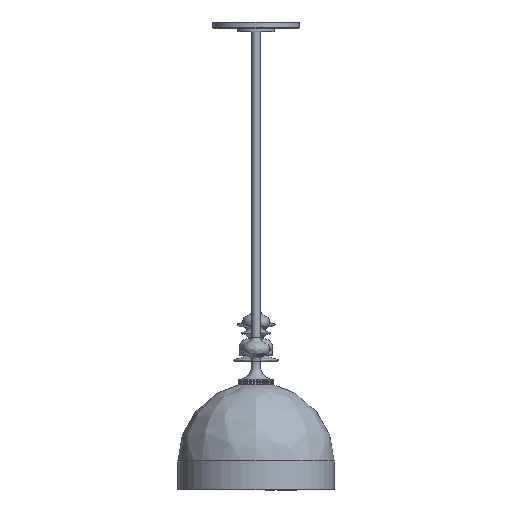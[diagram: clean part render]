
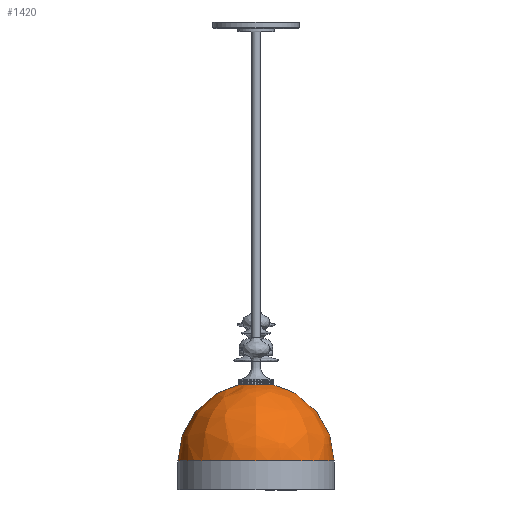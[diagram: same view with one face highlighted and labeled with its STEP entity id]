
A CAD part, left-side view. The second image highlights one B-rep face of the part: STEP entity #1420.
In plain terms, the highlighted free-form (B-spline) face has degree [2, 2] with [9, 3] control points.
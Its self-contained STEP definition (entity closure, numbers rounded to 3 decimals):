
#1420=ADVANCED_FACE('',(#2141),#9746,.T.);
#2141=FACE_OUTER_BOUND('',#2882,.T.);
#2882=EDGE_LOOP('',(#5277,#5278,#5279,#5280));
#5277=ORIENTED_EDGE('',*,*,#7099,.F.);
#5278=ORIENTED_EDGE('',*,*,#7096,.T.);
#5279=ORIENTED_EDGE('',*,*,#7099,.T.);
#5280=ORIENTED_EDGE('',*,*,#7103,.F.);
#7096=EDGE_CURVE('',#9046,#9046,#8160,.T.);
#7099=EDGE_CURVE('',#9046,#9049,#8163,.T.);
#7103=EDGE_CURVE('',#9049,#9049,#8166,.T.);
#8160=(
BOUNDED_CURVE()
B_SPLINE_CURVE(2,(#110011,#110012,#110013,#110014,#110015,#110016,#110017,
#110018,#110019),.UNSPECIFIED.,.T.,.F.)
B_SPLINE_CURVE_WITH_KNOTS((3,2,2,2,3),(-722.566,-541.925,
-361.283,-180.642,0.),.UNSPECIFIED.)
CURVE()
GEOMETRIC_REPRESENTATION_ITEM()
RATIONAL_B_SPLINE_CURVE((1.,0.707,1.,0.707,1.,0.707,
1.,0.707,1.))
REPRESENTATION_ITEM('')
);
#8163=(
BOUNDED_CURVE()
B_SPLINE_CURVE(2,(#110031,#110032,#110033),.UNSPECIFIED.,.F.,.F.)
B_SPLINE_CURVE_WITH_KNOTS((3,3),(166.554,321.524),
 .UNSPECIFIED.)
CURVE()
GEOMETRIC_REPRESENTATION_ITEM()
RATIONAL_B_SPLINE_CURVE((1.,0.78,1.))
REPRESENTATION_ITEM('')
);
#8166=(
BOUNDED_CURVE()
B_SPLINE_CURVE(2,(#110048,#110049,#110050,#110051,#110052,#110053,#110054,
#110055,#110056),.UNSPECIFIED.,.T.,.F.)
B_SPLINE_CURVE_WITH_KNOTS((3,2,2,2,3),(0.,39.27,78.54,
117.81,157.08),.UNSPECIFIED.)
CURVE()
GEOMETRIC_REPRESENTATION_ITEM()
RATIONAL_B_SPLINE_CURVE((1.,0.707,1.,0.707,1.,0.707,
1.,0.707,1.))
REPRESENTATION_ITEM('')
);
#9046=VERTEX_POINT('',#110002);
#9049=VERTEX_POINT('',#110005);
#9746=(
BOUNDED_SURFACE()
B_SPLINE_SURFACE(2,2,((#109919,#109920,#109921),(#109922,#109923,#109924),
(#109925,#109926,#109927),(#109928,#109929,#109930),(#109931,#109932,#109933),
(#109934,#109935,#109936),(#109937,#109938,#109939),(#109940,#109941,#109942),
(#109943,#109944,#109945)),.UNSPECIFIED.,.T.,.F.,.F.)
B_SPLINE_SURFACE_WITH_KNOTS((3,2,2,2,3),(3,3),(0.,180.642,361.283,
541.925,722.566),(166.554,321.524),
 .UNSPECIFIED.)
GEOMETRIC_REPRESENTATION_ITEM()
RATIONAL_B_SPLINE_SURFACE(((1.,0.773,0.981),(0.707,
0.547,0.694),(1.,0.773,0.981),
(0.707,0.547,0.694),(1.,0.773,
0.981),(0.707,0.547,0.694),
(1.,0.773,0.981),(0.707,0.547,
0.694),(1.,0.773,0.981)))
REPRESENTATION_ITEM('')
SURFACE()
);
#109919=CARTESIAN_POINT('',(-115.,0.,-646.816));
#109920=CARTESIAN_POINT('',(-115.,0.,-554.611));
#109921=CARTESIAN_POINT('',(-25.,0.,-534.567));
#109922=CARTESIAN_POINT('',(-115.,-115.,-646.816));
#109923=CARTESIAN_POINT('',(-115.,-115.,-554.611));
#109924=CARTESIAN_POINT('',(-25.,-25.,-534.567));
#109925=CARTESIAN_POINT('',(0.,-115.,-646.816));
#109926=CARTESIAN_POINT('',(0.,-115.,-554.611));
#109927=CARTESIAN_POINT('',(0.,-25.,-534.567));
#109928=CARTESIAN_POINT('',(115.,-115.,-646.816));
#109929=CARTESIAN_POINT('',(115.,-115.,-554.611));
#109930=CARTESIAN_POINT('',(25.,-25.,-534.567));
#109931=CARTESIAN_POINT('',(115.,0.,-646.816));
#109932=CARTESIAN_POINT('',(115.,0.,-554.611));
#109933=CARTESIAN_POINT('',(25.,0.,-534.567));
#109934=CARTESIAN_POINT('',(115.,115.,-646.816));
#109935=CARTESIAN_POINT('',(115.,115.,-554.611));
#109936=CARTESIAN_POINT('',(25.,25.,-534.567));
#109937=CARTESIAN_POINT('',(0.,115.,-646.816));
#109938=CARTESIAN_POINT('',(0.,115.,-554.611));
#109939=CARTESIAN_POINT('',(0.,25.,-534.567));
#109940=CARTESIAN_POINT('',(-115.,115.,-646.816));
#109941=CARTESIAN_POINT('',(-115.,115.,-554.611));
#109942=CARTESIAN_POINT('',(-25.,25.,-534.567));
#109943=CARTESIAN_POINT('',(-115.,0.,-646.816));
#109944=CARTESIAN_POINT('',(-115.,0.,-554.611));
#109945=CARTESIAN_POINT('',(-25.,0.,-534.567));
#110002=CARTESIAN_POINT('',(-115.,0.,-646.816));
#110005=CARTESIAN_POINT('',(-25.,0.,-534.567));
#110011=CARTESIAN_POINT('',(-115.,0.,-646.816));
#110012=CARTESIAN_POINT('',(-115.,-115.,-646.816));
#110013=CARTESIAN_POINT('',(0.,-115.,-646.816));
#110014=CARTESIAN_POINT('',(115.,-115.,-646.816));
#110015=CARTESIAN_POINT('',(115.,0.,-646.816));
#110016=CARTESIAN_POINT('',(115.,115.,-646.816));
#110017=CARTESIAN_POINT('',(0.,115.,-646.816));
#110018=CARTESIAN_POINT('',(-115.,115.,-646.816));
#110019=CARTESIAN_POINT('',(-115.,0.,-646.816));
#110031=CARTESIAN_POINT('',(-115.,0.,-646.816));
#110032=CARTESIAN_POINT('',(-115.,0.,-554.611));
#110033=CARTESIAN_POINT('',(-25.,0.,-534.567));
#110048=CARTESIAN_POINT('',(-25.,0.,-534.567));
#110049=CARTESIAN_POINT('',(-25.,-25.,-534.567));
#110050=CARTESIAN_POINT('',(0.,-25.,-534.567));
#110051=CARTESIAN_POINT('',(25.,-25.,-534.567));
#110052=CARTESIAN_POINT('',(25.,0.,-534.567));
#110053=CARTESIAN_POINT('',(25.,25.,-534.567));
#110054=CARTESIAN_POINT('',(0.,25.,-534.567));
#110055=CARTESIAN_POINT('',(-25.,25.,-534.567));
#110056=CARTESIAN_POINT('',(-25.,0.,-534.567));
